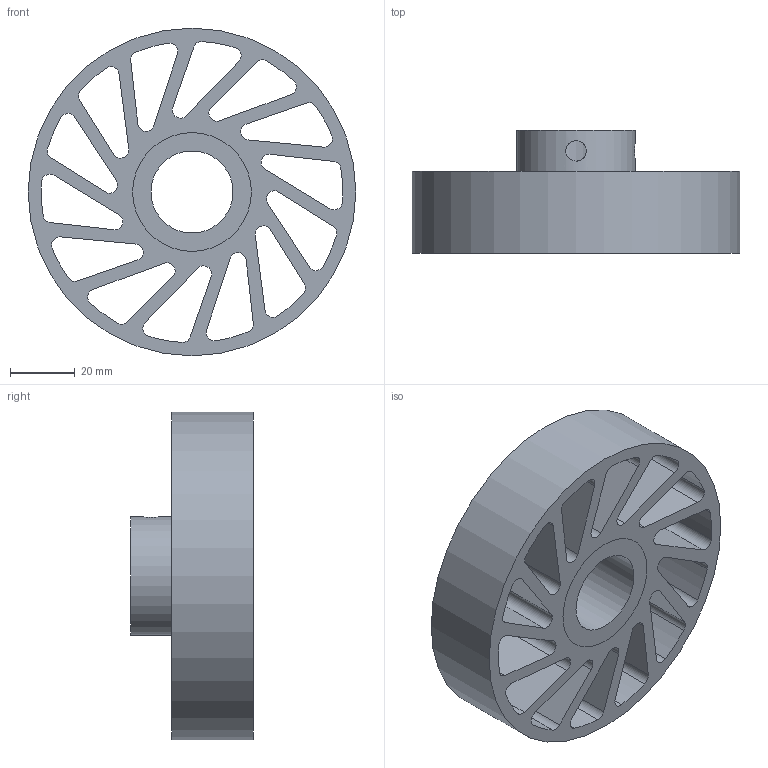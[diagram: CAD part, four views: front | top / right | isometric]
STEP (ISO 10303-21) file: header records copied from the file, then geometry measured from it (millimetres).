
FILE_DESCRIPTION(/* description */ (''),/* implementation_level */ '2;1');
FILE_NAME(/* name */ 'NCW-380-XXX-YYY.stp',/* time_stamp */ '2023-02-02T15:05:16-06:00',/* author */ ('AG'),/* organization */ ('Meridian Laboratory'),/* preprocessor_version */ 'ST-DEVELOPER v18.1',/* originating_system */ 'Autodesk Inventor 2022',/* authorisation */ '');
FILE_SCHEMA (('AUTOMOTIVE_DESIGN { 1 0 10303 214 3 1 1 }'));
Length unit declared in the file: inch
Products named in the file (1): NCW-340
Bounding box: 101.6 x 38.1 x 101.6 mm (x, y, z)
Volume: 109289.6 mm3; surface area: 51277.9 mm2
Topology: 2 solids, 2 shells, 94 faces, 276 edges, 186 vertices
Faces by surface type: cylinder 62, plane 32
Full cylindrical faces by diameter (mm): 6.35 x2, 25.425 x1, 36.83 x2, 101.6 x1
Entity records: 3530 total; most frequent: CARTESIAN_POINT 697, DIRECTION 576, ORIENTED_EDGE 552, EDGE_CURVE 276, AXIS2_PLACEMENT_3D 215, VERTEX_POINT 186, LINE 146, VECTOR 146
